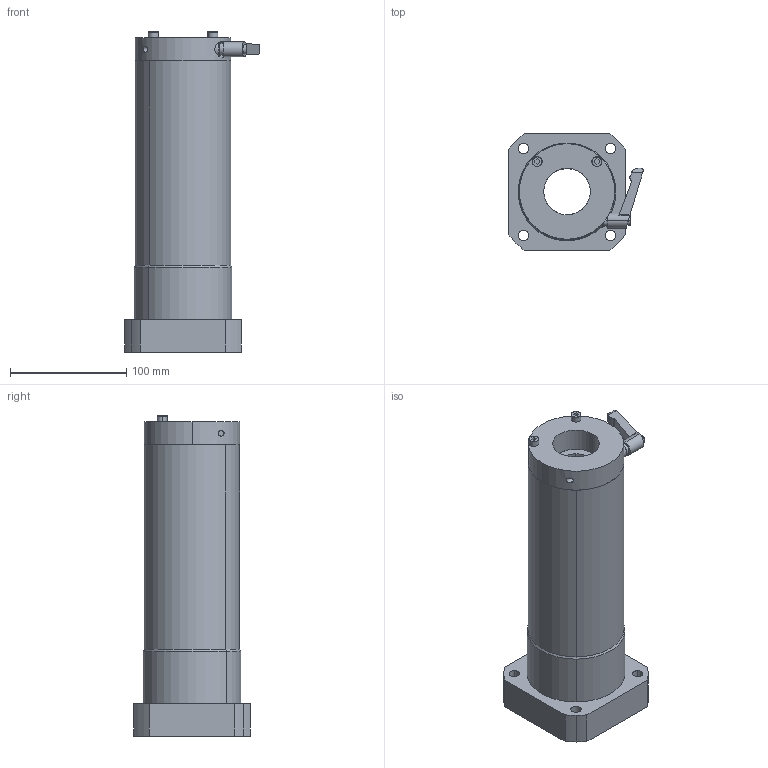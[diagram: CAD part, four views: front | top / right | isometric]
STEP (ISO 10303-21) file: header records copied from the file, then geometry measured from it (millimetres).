
FILE_DESCRIPTION (( 'STEP AP214' ), '1' );
FILE_NAME ('LFWL40AMF-CS.STEP', '2023-06-27T04:29:45', ( '' ), ( '' ), 'SwSTEP 2.0', 'SolidWorks 2019', '' );
FILE_SCHEMA (( 'AUTOMOTIVE_DESIGN' ));
Length unit declared in the file: millimetre
Products named in the file (3): “ÁSCK4020SS-S5.5; LFWL40AMF; LFWL40AMF-CS
Assembly tree (2 placements, depth 2):
  LFWL40AMF-CS
    LFWL40AMF
    “ÁSCK4020SS-S5.5
Bounding box: 115.4 x 100 x 275 mm (x, y, z)
Volume: 1202950.2 mm3; surface area: 155291.3 mm2
Topology: 4 solids, 10 shells, 210 faces, 510 edges, 324 vertices
Faces by surface type: cylinder 85, plane 61, bspline 43, cone 13, torus 8
Entity records: 9145 total; most frequent: CARTESIAN_POINT 1979, DIRECTION 1083, ORIENTED_EDGE 1020, EDGE_CURVE 510, AXIS2_PLACEMENT_3D 446, VERTEX_POINT 324, CIRCLE 274, EDGE_LOOP 256
